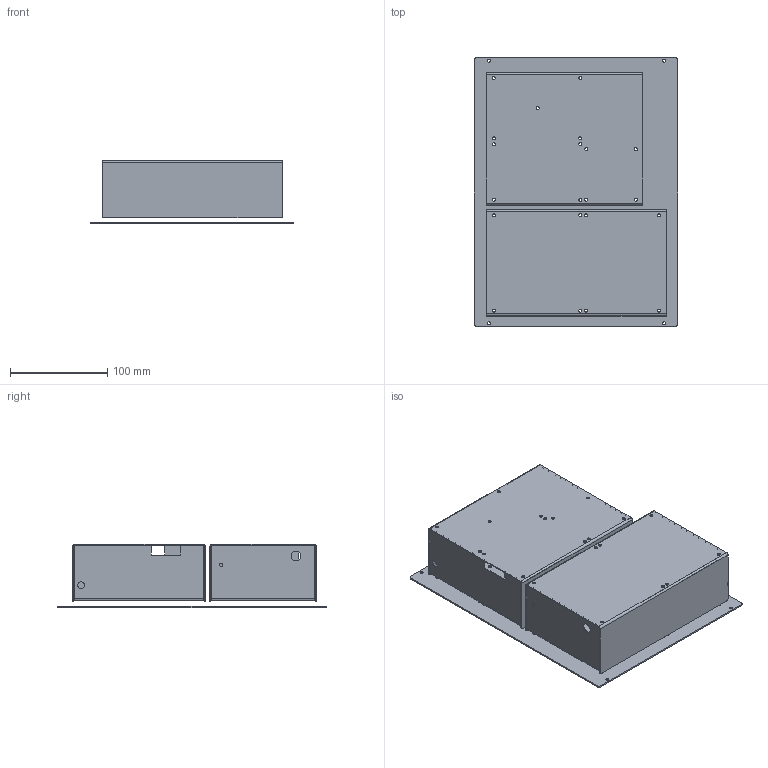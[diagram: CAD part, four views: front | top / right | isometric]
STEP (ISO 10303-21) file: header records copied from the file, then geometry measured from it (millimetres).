
FILE_DESCRIPTION(('FreeCAD Model'),'2;1');
FILE_NAME('Open CASCADE Shape Model','2021-12-19T00:28:32',('Author'),( ''),'Open CASCADE STEP processor 7.4','FreeCAD','Unknown');
FILE_SCHEMA(('AUTOMOTIVE_DESIGN { 1 0 10303 214 1 1 1 1 }'));
Length unit declared in the file: millimetre
Products named in the file (6): inth_1; Cut007; Fillet004; Cut009; Cut010; Cut011
Assembly tree (5 placements, depth 2):
  inth_1
    Cut007
    Fillet004
    Cut009
    Cut010
    Cut011
Bounding box: 209 x 276 x 65 mm (x, y, z)
Volume: 233726.3 mm3; surface area: 415949.5 mm2
Topology: 5 solids, 5 shells, 213 faces, 545 edges, 342 vertices
Faces by surface type: cylinder 123, plane 90
Full cylindrical faces by diameter (mm): 3.2 x73, 4 x8, 7 x2, 10 x4
Entity records: 14112 total; most frequent: CARTESIAN_POINT 2480, DIRECTION 2225, ORIENTED_EDGE 1090, PCURVE 1090, DEFINITIONAL_REPRESENTATION 1090, LINE 1087, VECTOR 1087, EDGE_CURVE 545
